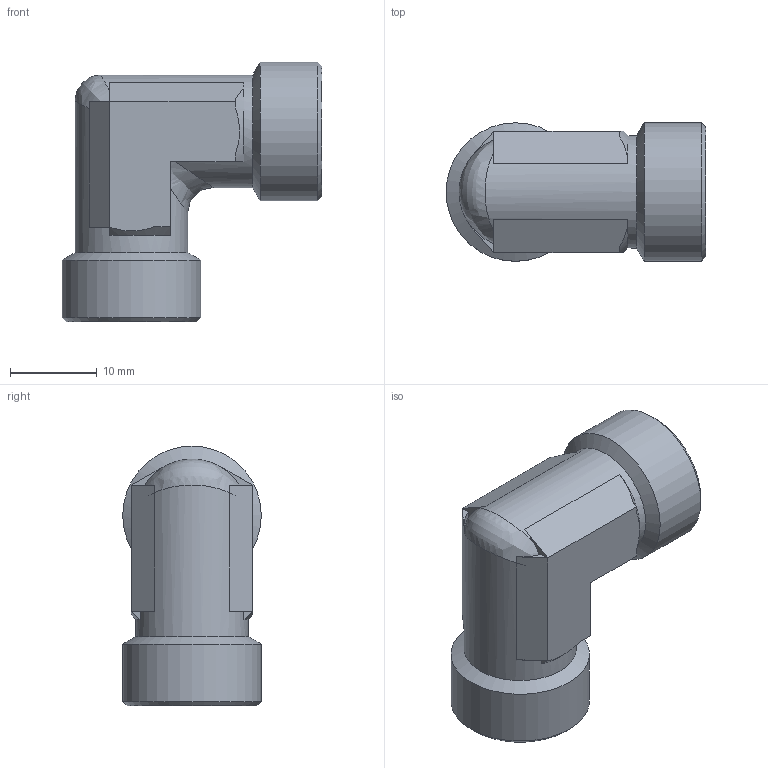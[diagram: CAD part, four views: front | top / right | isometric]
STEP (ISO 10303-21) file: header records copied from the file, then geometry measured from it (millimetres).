
FILE_DESCRIPTION( ( 'Unknown' ), '1' );
FILE_NAME( 'C:/Users/p.nanko/Desktop/3D SR/XW10L.stp', 'Unknown', ( 'Peter Nanko' ), ( 'Armaturen Arndt' ), 'PSStep 14.0', 'Solid Edge ST4', ' ' );
FILE_SCHEMA( ( 'AUTOMOTIVE_DESIGN { 1 0 10303 214 1 1 1 1 }' ) );
Length unit declared in the file: millimetre
Products named in the file (1): 1
Bounding box: 30 x 16 x 30 mm (x, y, z)
Volume: 4314.6 mm3; surface area: 3610.1 mm2
Topology: 1 solids, 1 shells, 60 faces, 141 edges, 85 vertices
Faces by surface type: plane 32, cylinder 16, cone 10, bspline 2
Full cylindrical faces by diameter (mm): 8 x2, 10 x2, 13 x2, 16 x2
Entity records: 2652 total; most frequent: CARTESIAN_POINT 869, DIRECTION 274, ORIENTED_EDGE 246, EDGE_CURVE 123, AXIS2_PLACEMENT_3D 112, VERTEX_POINT 81, EDGE_LOOP 78, FACE_OUTER_BOUND 68
